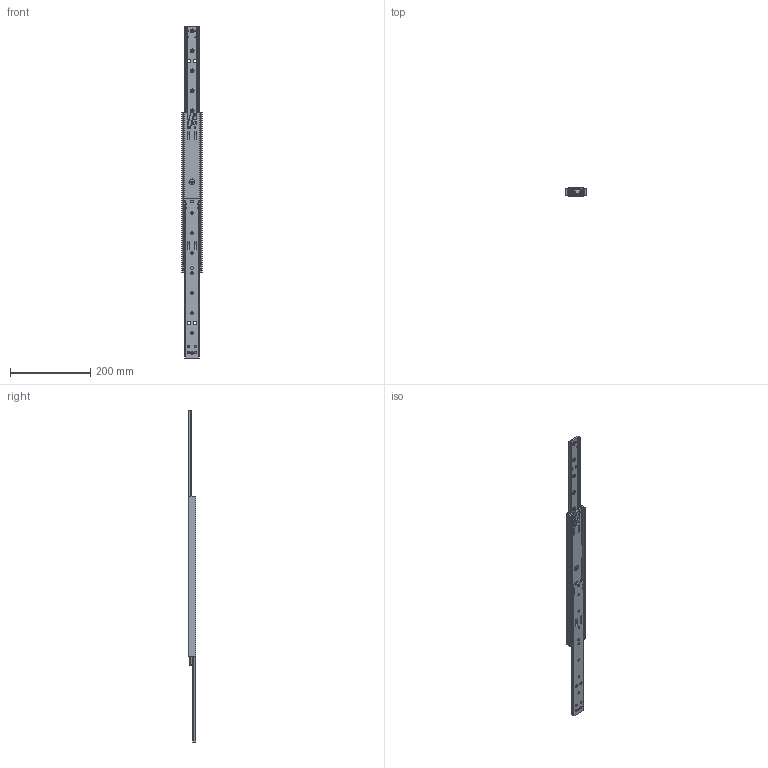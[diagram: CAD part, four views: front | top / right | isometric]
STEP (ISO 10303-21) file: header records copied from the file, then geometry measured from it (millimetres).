
FILE_DESCRIPTION (( 'STEP AP214' ), '1' );
FILE_NAME ('230-400-open.STEP', '2024-08-20T11:23:33', ( '' ), ( '' ), 'SwSTEP 2.0', 'SolidWorks 2024', '' );
FILE_SCHEMA (( 'AUTOMOTIVE_DESIGN' ));
Length unit declared in the file: millimetre
Products named in the file (12): 400_000_004_19.STEP_Part223; 230-400-open; 61_12280_06_Beam Assembled - Stop Raises _3.STEP_Part215; 61_12274_19.STEP_Part220; 370_002_070_19.STEP_Part221; 61_12275_5.STEP_Part219; 61_12278_08_3.STEP_Part224; 61_13331_Pin Fitted_19.STEP_Part216; 61_12279_06_3.STEP_Part214; 301_000_008_Fitted_19.STEP_Part218; 61_12282_19.STEP_Part217; 61_12285_06_open.STEP_Assem39
Assembly tree (27 placements, depth 3):
  230-400-open
    61_12285_06_open.STEP_Assem39
      61_12279_06_3.STEP_Part214
      61_12280_06_Beam Assembled - Stop Raises _3.STEP_Part215  x2
      61_13331_Pin Fitted_19.STEP_Part216  x4
      61_12282_19.STEP_Part217
      301_000_008_Fitted_19.STEP_Part218  x2
      61_12275_5.STEP_Part219
      61_12274_19.STEP_Part220
      370_002_070_19.STEP_Part221  x2
      400_000_004_19.STEP_Part223  x8
      61_12278_08_3.STEP_Part224  x4
Bounding box: 50.7 x 19.75 x 830 mm (x, y, z)
Volume: 231406.4 mm3; surface area: 160761.2 mm2
Topology: 26 solids, 26 shells, 1256 faces, 3241 edges, 2015 vertices
Faces by surface type: cylinder 548, plane 281, sphere 225, cone 80, torus 77, bspline 45
Entity records: 28449 total; most frequent: CARTESIAN_POINT 8725, DIRECTION 4244, ORIENTED_EDGE 4006, EDGE_CURVE 2003, AXIS2_PLACEMENT_3D 1698, VERTEX_POINT 1238, CIRCLE 926, EDGE_LOOP 895
